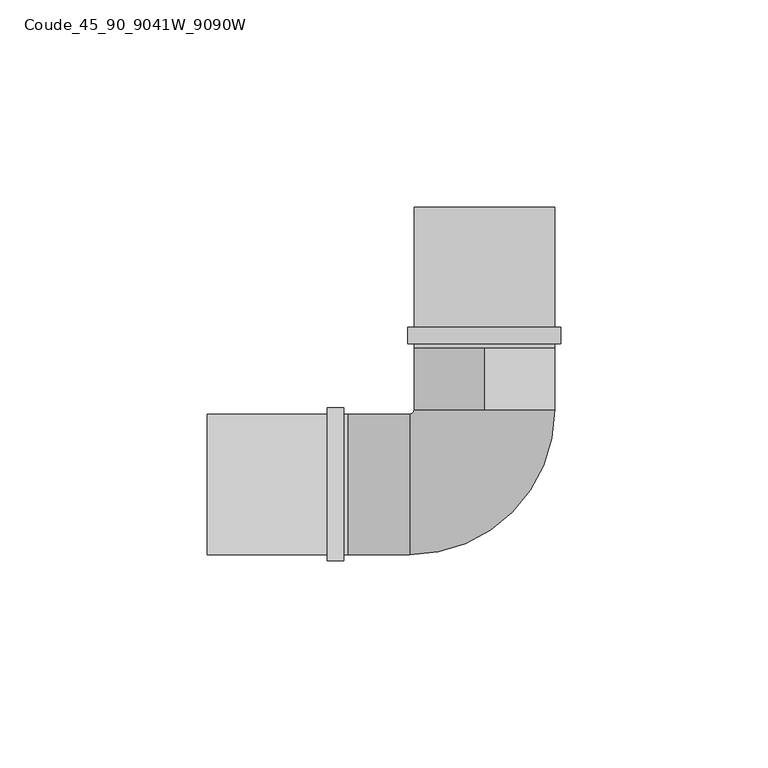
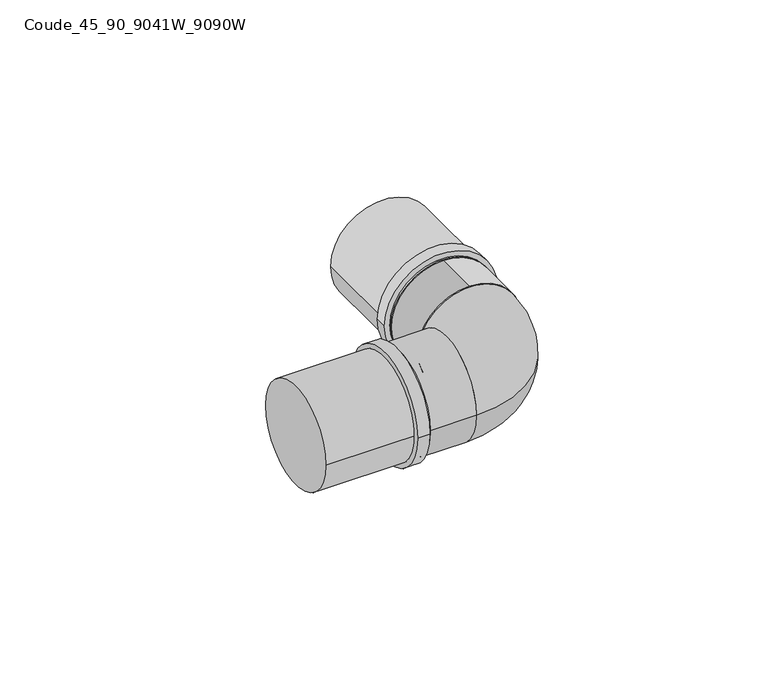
"""IFC4 building model written with IfcOpenShell, lengths in millimetres: pipe fitting geometry, COMAP - SKINPRESS ppsu - Coude_45_90_9041W_9090W : Coude_45_90_9041W_9090W."""

import ifcopenshell
import ifcopenshell.guid

model = None  # the IFC model being written
_history = None  # IfcOwnerHistory: only IFC2X3 demands one
_inside = {}  # id of a spatial element -> (the spatial element, [elements in it])
_under = {}  # id of a project, library or spatial element -> (it, [spatial elements below it])
_declared = {}  # id of a project -> (the project, [libraries it declares])
_typed = {}  # id of a type object -> (the type object, [elements of that type])
_made_of = {}  # id of a material, layer set ... -> (it, [elements and type objects made of it])


def new_model(schema):
    """Start an empty IFC model of exactly this schema.

    Asked for "IFC4X3", IfcOpenShell would pick the latest addendum, in which some entities
    have other attributes; the version numbers below select the first issue.
    IFC2X3 requires an IfcOwnerHistory on every rooted entity: one is made here for all.
    """
    global model, _history
    if schema == "IFC4X3":
        model = ifcopenshell.file(schema_version=(4, 3, 0, 0))
    else:
        model = ifcopenshell.file(schema=schema)
    _inside.clear()
    _under.clear()
    _declared.clear()
    _typed.clear()
    _made_of.clear()
    _history = None
    if model.schema == "IFC2X3":
        org = make("IfcOrganization", Name="unknown")
        user = make(
            "IfcPersonAndOrganization",
            ThePerson=make("IfcPerson", FamilyName="unknown"),
            TheOrganization=org,
        )
        app = make(
            "IfcApplication",
            ApplicationDeveloper=org,
            Version="unknown",
            ApplicationFullName="unknown",
            ApplicationIdentifier="unknown",
        )
        _history = make(
            "IfcOwnerHistory",
            OwningUser=user,
            OwningApplication=app,
            ChangeAction="ADDED",
            CreationDate=0,
        )
    return model


def make(cls, **values):
    """One entity of the class cls with the attributes given. An attribute that is None is left unset."""
    return model.create_entity(
        cls, **{name: value for name, value in values.items() if value is not None}
    )


def rooted(cls, **values):
    """An entity with a GlobalId (a new one), such as an element, a storey or a relation."""
    return make(cls, GlobalId=ifcopenshell.guid.new(), OwnerHistory=_history, **values)


def si_unit(unit_type, name, prefix=None):
    """IfcSIUnit, for example si_unit("LENGTHUNIT", "METRE", prefix="MILLI")."""
    return make("IfcSIUnit", UnitType=unit_type, Prefix=prefix, Name=name)


def assignment(units):
    """IfcUnitAssignment: the units of a project."""
    return None if units is None else make("IfcUnitAssignment", Units=units)


def point(xyz):
    """IfcCartesianPoint."""
    return None if xyz is None else make("IfcCartesianPoint", Coordinates=xyz)


def direction(xyz):
    """IfcDirection."""
    return None if xyz is None else make("IfcDirection", DirectionRatios=xyz)


def frame(location, z_axis=None, x_axis=None):
    """IfcAxis2Placement3D, a coordinate frame: its origin and axes. An axis left out is left unset."""
    return make(
        "IfcAxis2Placement3D",
        Location=point(location),
        Axis=direction(z_axis),
        RefDirection=direction(x_axis),
    )


def frame_2d(location, x_axis=None):
    """IfcAxis2Placement2D, a coordinate frame in the plane: its origin and x axis."""
    return make(
        "IfcAxis2Placement2D", Location=point(location), RefDirection=direction(x_axis)
    )


def origin():
    """The frame at (0, 0, 0) with its axes left unset."""
    return frame((0.0, 0.0, 0.0))


def origin_2d():
    """The frame at (0, 0) in the plane with its x axis left unset."""
    return frame_2d((0.0, 0.0))


def place(relative_to, where):
    """IfcLocalPlacement: puts the frame where relative to a parent placement (None: the world)."""
    return make(
        "IfcLocalPlacement", PlacementRelTo=relative_to, RelativePlacement=where
    )


def context(
    kind, dimensions, precision=None, world=None, true_north=None, identifier=None
):
    """IfcGeometricRepresentationContext, for example the 3D "Model" context."""
    return make(
        "IfcGeometricRepresentationContext",
        ContextIdentifier=identifier,
        ContextType=kind,
        CoordinateSpaceDimension=dimensions,
        Precision=precision,
        WorldCoordinateSystem=world,
        TrueNorth=true_north,
    )


def project(units=None, contexts=None):
    """IfcProject with its units and contexts."""
    return rooted(
        "IfcProject",
        Name="project",
        RepresentationContexts=contexts,
        UnitsInContext=assignment(units),
    )


def spatial(cls, under=None, at=None, **own):
    """A site, building, storey or space (cls), placed at a placement, below another one or the project."""
    s = rooted(cls, ObjectPlacement=at, **own)
    if under is not None:
        _under.setdefault(under.id(), (under, []))[1].append(s)
    return s


def circle_curve(where, radius):
    """IfcCircle in the frame where."""
    return make("IfcCircle", Position=where, Radius=radius)


def ellipse_curve(where, semi_axis1, semi_axis2):
    """IfcEllipse in the frame where."""
    return make(
        "IfcEllipse", Position=where, SemiAxis1=semi_axis1, SemiAxis2=semi_axis2
    )


def trimmed(basis, trim1, trim2, sense, master):
    """IfcTrimmedCurve: the piece of a basis curve between two trims."""
    return make(
        "IfcTrimmedCurve",
        BasisCurve=basis,
        Trim1=trim1,
        Trim2=trim2,
        SenseAgreement=sense,
        MasterRepresentation=master,
    )


def segment(curve, same_sense, transition):
    """IfcCompositeCurveSegment."""
    return make(
        "IfcCompositeCurveSegment",
        Transition=transition,
        SameSense=same_sense,
        ParentCurve=curve,
    )


def composite_curve(segments, self_intersect=None):
    """IfcCompositeCurve: segments joined end to end."""
    return make("IfcCompositeCurve", Segments=segments, SelfIntersect=self_intersect)


def outline(outer, holes=None, kind="AREA"):
    """IfcArbitraryClosedProfileDef: a profile drawn as a closed curve; with holes, ...WithVoids."""
    if holes is None:
        return make("IfcArbitraryClosedProfileDef", ProfileType=kind, OuterCurve=outer)
    return make(
        "IfcArbitraryProfileDefWithVoids",
        ProfileType=kind,
        OuterCurve=outer,
        InnerCurves=holes,
    )


def extrude(swept, where, along, depth):
    """IfcExtrudedAreaSolid: the profile swept, set in the frame where, extruded along a direction by depth."""
    return make(
        "IfcExtrudedAreaSolid",
        SweptArea=swept,
        Position=where,
        ExtrudedDirection=direction(along),
        Depth=depth,
    )


def shape(context_of_items, identifier, shape_type, items):
    """IfcShapeRepresentation: the items that make up one representation, for example the "Body"."""
    return make(
        "IfcShapeRepresentation",
        ContextOfItems=context_of_items,
        RepresentationIdentifier=identifier,
        RepresentationType=shape_type,
        Items=items,
    )


def source(mapping_origin, context_of_items, identifier, shape_type, items):
    """IfcRepresentationMap: a shape defined once, which mapped items show again and again."""
    return make(
        "IfcRepresentationMap",
        MappingOrigin=mapping_origin,
        MappedRepresentation=shape(context_of_items, identifier, shape_type, items),
    )


def transform(
    local_origin,
    x_axis=None,
    y_axis=None,
    z_axis=None,
    scale=None,
    scale2=None,
    scale3=None,
    uniform=True,
):
    """IfcCartesianTransformationOperator3D, or its non-uniform kind. x_axis, y_axis, z_axis: its Axis1, 2, 3."""
    if uniform:
        return make(
            "IfcCartesianTransformationOperator3D",
            Axis1=direction(x_axis),
            Axis2=direction(y_axis),
            LocalOrigin=point(local_origin),
            Scale=scale,
            Axis3=direction(z_axis),
        )
    return make(
        "IfcCartesianTransformationOperator3DnonUniform",
        Axis1=direction(x_axis),
        Axis2=direction(y_axis),
        LocalOrigin=point(local_origin),
        Scale=scale,
        Axis3=direction(z_axis),
        Scale2=scale2,
        Scale3=scale3,
    )


def mapped(mapping_source, mapping_target):
    """IfcMappedItem: shows the shape of a source again, moved by a transform."""
    return make(
        "IfcMappedItem", MappingSource=mapping_source, MappingTarget=mapping_target
    )


def made_of(thing, what):
    """Note that an element or type object is made of a material, layer set ...; save() writes the relation."""
    if what is not None:
        _made_of.setdefault(what.id(), (what, []))[1].append(thing)
    return thing


def element(
    cls,
    number,
    at=None,
    inside=None,
    cuts=None,
    type_object=None,
    material=None,
    context=None,
    identifier="Body",
    shape_type=None,
    held_by="IfcProductDefinitionShape",
    body=None,
    shapes=None,
    **own,
):
    """One element of the class cls, such as IfcWall. Its Tag is "e" and its number.

    at: its placement. inside: the storey or other place that contains it. cuts: it is an
    opening in that element (IfcRelVoidsElement). A single representation is given by context,
    identifier, shape_type and body (its items); several are given by shapes. held_by: the class
    of the entity that holds the representations. save() writes the other relations.
    """
    e = rooted(cls, Tag="e%d" % number, ObjectPlacement=at, **own)
    if body is not None:
        shapes = [shape(context, identifier, shape_type, body)]
    if shapes is not None:
        e.Representation = make(held_by, Representations=shapes)
    if inside is not None:
        _inside.setdefault(inside.id(), (inside, []))[1].append(e)
    if cuts is not None:
        rooted(
            "IfcRelVoidsElement", RelatingBuildingElement=cuts, RelatedOpeningElement=e
        )
    if type_object is not None:
        _typed.setdefault(type_object.id(), (type_object, []))[1].append(e)
    return made_of(e, material)


def aggregate(whole, parts):
    """IfcRelAggregates: a whole, such as a stair, and the parts it consists of."""
    return rooted("IfcRelAggregates", RelatingObject=whole, RelatedObjects=parts)


def save(model, path):
    """Write the relations noted so far, then the file.

    IfcRelAggregates (storeys below a building ...), IfcRelContainedInSpatialStructure (elements
    in a storey), IfcRelDefinesByType, IfcRelAssociatesMaterial and IfcRelDeclares: one each for
    every whole, place, type object, material and project.
    """
    for whole, parts in _under.values():
        aggregate(whole, parts)
    for where, things in _inside.values():
        rooted(
            "IfcRelContainedInSpatialStructure",
            RelatedElements=things,
            RelatingStructure=where,
        )
    for kind, things in _typed.values():
        rooted("IfcRelDefinesByType", RelatedObjects=things, RelatingType=kind)
    for what, things in _made_of.values():
        rooted("IfcRelAssociatesMaterial", RelatedObjects=things, RelatingMaterial=what)
    for by, libraries in _declared.values():
        rooted("IfcRelDeclares", RelatingContext=by, RelatedDefinitions=libraries)
    model.write(path)


def plane_surface(at):
    """IfcPlane: the flat surface through the origin of the frame at, square to its z axis."""
    return make("IfcPlane", Position=at)


def revolved_surface(curve, axis_point, axis_direction):
    """IfcSurfaceOfRevolution: the curve turned about the line through axis_point along axis_direction."""
    return make(
        "IfcSurfaceOfRevolution",
        SweptCurve=make("IfcArbitraryOpenProfileDef", ProfileType="CURVE", Curve=curve),
        AxisPosition=make("IfcAxis1Placement", Location=point(axis_point), Axis=direction(axis_direction)),
    )


def advanced_brep(points, edges, surfaces, faces):
    """IfcAdvancedBrep: a solid bounded by faces that lie on surfaces and meet in shared edges.

    An edge is (start, end): straight between two places in points (the first is 0);
    or (start, end, curve); or (start, end, curve, False) where it runs against its curve.
    A face is (place in surfaces, loops), or (place, loops, False) where it looks against
    its surface's normal. A loop lists edges by number (the first is 1), with a minus sign
    where the edge is run from its end to its start. The first loop is the outer one.
    """
    corners = [point(p) for p in points]
    vertices = [make("IfcVertexPoint", VertexGeometry=c) for c in corners]
    made = []
    for start, end, *more in edges:
        made.append(
            make(
                "IfcEdgeCurve",
                EdgeStart=vertices[start],
                EdgeEnd=vertices[end],
                EdgeGeometry=more[0] if more else make("IfcPolyline", Points=[corners[start], corners[end]]),
                SameSense=more[1] if len(more) > 1 else True,
            )
        )
    hull = []
    for where, loops, *sense in faces:
        bounds = []
        for j, loop in enumerate(loops):
            ring = [make("IfcOrientedEdge", EdgeElement=made[abs(k) - 1], Orientation=k > 0) for k in loop]
            bounds.append(
                make(
                    "IfcFaceOuterBound" if j == 0 else "IfcFaceBound",
                    Bound=make("IfcEdgeLoop", EdgeList=ring),
                    Orientation=True,
                )
            )
        hull.append(make("IfcAdvancedFace", Bounds=bounds, FaceSurface=surfaces[where], SameSense=sense[0] if sense else True))
    return make("IfcAdvancedBrep", Outer=make("IfcClosedShell", CfsFaces=hull))


def coude_45_90_9041w_9090w_3406a30f(model_context):
    return source(origin(), model_context, "Body", "SolidModel", [
        extrude(outline(composite_curve([segment(trimmed(circle_curve(origin_2d(), 18.5), [point((0.0, -18.5))], [point((0.0, 18.5))], False, "CARTESIAN"), True, "CONTINUOUS"), segment(trimmed(circle_curve(origin_2d(), 18.5), [point((0.0, 18.5))], [point((0.0, -18.5))], False, "CARTESIAN"), True, "CONTINUOUS")], self_intersect=False)), frame((0.0, 34.0, 0.0), z_axis=(0.0, 1.0, 0.0), x_axis=(0.0, 0.0, 1.0)), (0.0, 0.0, 1.0), 4.0),
        extrude(outline(composite_curve([segment(trimmed(circle_curve(origin_2d(), 17.0), [point((0.0, -17.0))], [point((0.0, 17.0))], False, "CARTESIAN"), True, "CONTINUOUS"), segment(trimmed(circle_curve(origin_2d(), 17.0), [point((0.0, 17.0))], [point((0.0, -17.0))], False, "CARTESIAN"), True, "CONTINUOUS")], self_intersect=False)), frame((0.0, 33.0, 0.0), z_axis=(0.0, 1.0, 0.0), x_axis=(0.0, 0.0, 1.0)), (0.0, 0.0, 1.0), 34.0),
        extrude(outline(composite_curve([segment(trimmed(circle_curve(origin_2d(), 18.5), [point((-18.5, 0.0))], [point((18.5, 0.0))], False, "CARTESIAN"), True, "CONTINUOUS"), segment(trimmed(circle_curve(origin_2d(), 18.5), [point((18.5, 0.0))], [point((-18.5, 0.0))], False, "CARTESIAN"), True, "CONTINUOUS")], self_intersect=False)), frame((-38.0, 0.0, 0.0), z_axis=(1.0, 0.0, 0.0), x_axis=(0.0, 1.0, 0.0)), (0.0, 0.0, 1.0), 4.0),
        extrude(outline(composite_curve([segment(trimmed(circle_curve(origin_2d(), 17.0), [point((-17.0, 0.0))], [point((17.0, 0.0))], False, "CARTESIAN"), True, "CONTINUOUS"), segment(trimmed(circle_curve(origin_2d(), 17.0), [point((17.0, 0.0))], [point((-17.0, 0.0))], False, "CARTESIAN"), True, "CONTINUOUS")], self_intersect=False)), frame((-67.0, 0.0, 0.0), z_axis=(1.0, 0.0, 0.0), x_axis=(0.0, 1.0, 0.0)), (0.0, 0.0, 1.0), 34.0),
        extrude(outline(composite_curve([segment(trimmed(circle_curve(origin_2d(), 17.0), [point((17.0, 0.0))], [point((-17.0, 0.0))], False, "CARTESIAN"), True, "CONTINUOUS"), segment(trimmed(circle_curve(origin_2d(), 17.0), [point((-17.0, 0.0))], [point((17.0, 0.0))], False, "CARTESIAN"), True, "CONTINUOUS")], self_intersect=False)), frame((-33.0, 0.0, 0.0), z_axis=(1.0, 0.0, 0.0), x_axis=(0.0, 1.0, 0.0)), (0.0, 0.0, 1.0), 15.0),
        extrude(outline(composite_curve([segment(trimmed(circle_curve(origin_2d(), 17.0), [point((-17.0, 0.0))], [point((17.0, 0.0))], False, "CARTESIAN"), True, "CONTINUOUS"), segment(trimmed(circle_curve(origin_2d(), 17.0), [point((17.0, 0.0))], [point((-17.0, 0.0))], False, "CARTESIAN"), True, "CONTINUOUS")], self_intersect=False)), frame((0.0, 18.0, 0.0), z_axis=(0.0, 1.0, 0.0), x_axis=(0.0, 0.0, 1.0)), (0.0, 0.0, 1.0), 15.0),
        advanced_brep(
        [(-18.0, -17.0, 0.0), (-18.0, 17.0, 0.0), (17.0, 18.0, 0.0), (-17.0, 18.0, 0.0)],
        [
            (0, 1, circle_curve(frame((-18.0, 0.0, 0.0), z_axis=(-1.0, 0.0, 0.0), x_axis=(0.0, 1.0, 0.0)), 17.0)),
            (1, 0, circle_curve(frame((-18.0, 0.0, 0.0), z_axis=(-1.0, 0.0, 0.0), x_axis=(0.0, 1.0, 0.0)), 17.0)),
            (2, 3, circle_curve(frame((0.0, 18.0, 0.0), z_axis=(0.0, 1.0, 0.0), x_axis=(-1.0, 0.0, 0.0)), 17.0)),
            (3, 2, circle_curve(frame((0.0, 18.0, 0.0), z_axis=(0.0, 1.0, 0.0), x_axis=(-1.0, 0.0, 0.0)), 17.0)),
            (3, 1, circle_curve(frame((-18.0, 18.0, 0.0), z_axis=(0.0, 0.0, -1.0), x_axis=(0.0, -1.0, 0.0)), 1.0)),
            (0, 2, circle_curve(frame((-18.0, 18.0, 0.0), z_axis=(0.0, 0.0, 1.0), x_axis=(0.0, -1.0, 0.0)), 35.0)),
        ],
        [
            plane_surface(frame((-18.0, 0.0, 0.0), z_axis=(-1.0, 0.0, 0.0), x_axis=(0.0, 0.0, 1.0))),
            plane_surface(frame((0.0, 18.0, 0.0), z_axis=(0.0, 1.0, 0.0), x_axis=(0.0, 0.0, 1.0))),
            revolved_surface(trimmed(ellipse_curve(frame((-18.0, 0.0, 0.0), z_axis=(-1.0, 0.0, 0.0), x_axis=(0.0, 1.0, 0.0)), 17.0, 17.0), [point((-18.0, -17.0, 0.0))], [point((-18.0, 17.0, 0.0))], True, "CARTESIAN"), (-18.0, 18.0, 0.0), (0.0, 0.0, 1.0)),
            revolved_surface(trimmed(ellipse_curve(frame((-18.0, 0.0, 0.0), z_axis=(-1.0, 0.0, 0.0), x_axis=(0.0, 1.0, 0.0)), 17.0, 17.0), [point((-18.0, 17.0, 0.0))], [point((-18.0, -17.0, 0.0))], True, "CARTESIAN"), (-18.0, 18.0, 0.0), (0.0, 0.0, 1.0)),
        ],
        [
            (0, [[1, 2]]),
            (1, [[3, 4]]),
            (2, [[5, -1, 6, -4]]),
            (3, [[-6, -2, -5, -3]]),
        ],
    ),
    ])


if __name__ == "__main__":
    model = new_model("IFC4")
    model_context = context("Model", 3, world=origin())
    ifc_project = project(units=[si_unit("LENGTHUNIT", "METRE", prefix="MILLI")], contexts=[model_context])
    site = spatial("IfcSite", under=ifc_project)
    building = spatial("IfcBuilding", under=site)
    placement = place(None, origin())
    coude_45_90_9041w_9090w_shape = coude_45_90_9041w_9090w_3406a30f(model_context)
    element("IfcPipeFitting", 1, ObjectType="COMAP - SKINPRESS ppsu - Coude_45_90_9041W_9090W : Coude_45_90_9041W_9090W", at=placement, inside=building, context=model_context, shape_type="MappedRepresentation", body=[
        mapped(coude_45_90_9041w_9090w_shape, transform((0.0, 0.0, 0.0), x_axis=(1.0, 0.0, 0.0), y_axis=(0.0, 1.0, 0.0), z_axis=(0.0, 0.0, 1.0))),
    ])
    save(model, "model.ifc")
